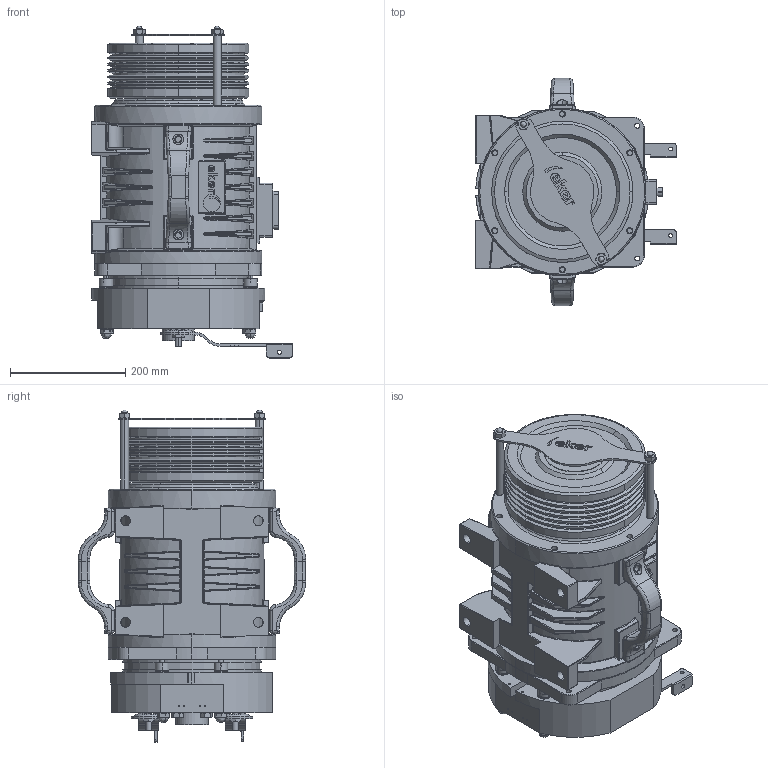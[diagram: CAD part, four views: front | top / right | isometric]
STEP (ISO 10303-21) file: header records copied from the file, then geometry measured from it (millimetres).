
FILE_DESCRIPTION (( 'STEP AP214' ), '1' );
FILE_NAME ('QS12440080.STEP', '2025-09-30T11:46:50', ( '' ), ( '' ), 'SwSTEP 2.0', 'SolidWorks 2023', '' );
FILE_SCHEMA (( 'AUTOMOTIVE_DESIGN' ));
Length unit declared in the file: millimetre
Products named in the file (1): QS12440080
Bounding box: 348.03 x 394 x 575.52 mm (x, y, z)
Volume: 26966589.2 mm3; surface area: 2210104.6 mm2
Topology: 55 solids, 70 shells, 3771 faces, 9232 edges, 5546 vertices
Faces by surface type: cylinder 1475, bspline 1053, plane 904, cone 339
Entity records: 150123 total; most frequent: CARTESIAN_POINT 66966, ORIENTED_EDGE 18070, DIRECTION 16253, EDGE_CURVE 9035, AXIS2_PLACEMENT_3D 6494, VERTEX_POINT 5546, EDGE_LOOP 4211, CIRCLE 3775
